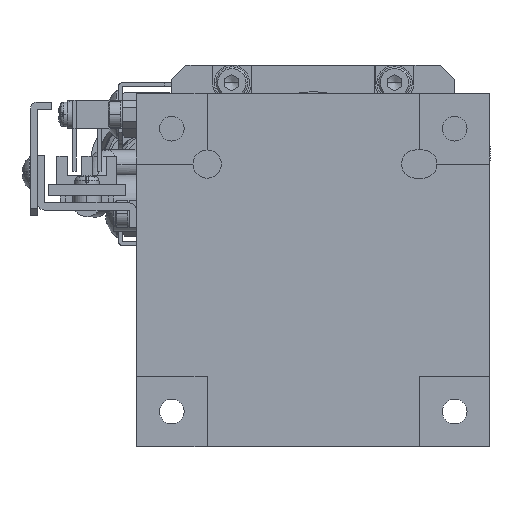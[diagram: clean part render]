
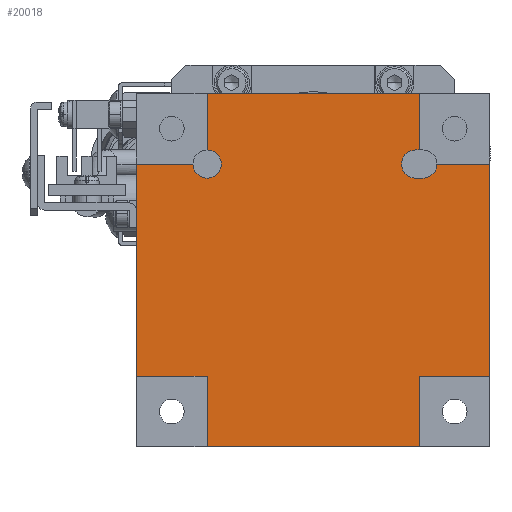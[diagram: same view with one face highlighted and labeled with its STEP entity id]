
A CAD part, front view. The second image highlights one B-rep face of the part: STEP entity #20018.
In plain terms, the highlighted planar face has unit normal (0, -1, 0) as drawn and (1, 0, 0) by its records, which use the part's own axes.
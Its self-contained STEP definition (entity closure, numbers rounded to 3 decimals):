
#779 = LINE ( 'NONE', #53503, #20107 ) ;
#909 = VERTEX_POINT ( 'NONE', #63635 ) ;
#1174 = CARTESIAN_POINT ( 'NONE',  ( 87.637, 117.831, -0.5 ) ) ;
#2214 = ORIENTED_EDGE ( 'NONE', *, *, #41973, .F. ) ;
#2621 = VECTOR ( 'NONE', #20832, 1000. ) ;
#3336 = CARTESIAN_POINT ( 'NONE',  ( 87.637, 117.831, -0.5 ) ) ;
#3385 = AXIS2_PLACEMENT_3D ( 'NONE', #10254, #10469, #49836 ) ;
#3535 = LINE ( 'NONE', #28181, #62204 ) ;
#3547 = DIRECTION ( 'NONE',  ( 0., -1., 0. ) ) ;
#4134 = LINE ( 'NONE', #3336, #5681 ) ;
#4188 = DIRECTION ( 'NONE',  ( 0., 0., 1. ) ) ;
#4217 = ORIENTED_EDGE ( 'NONE', *, *, #34833, .T. ) ;
#4383 = CARTESIAN_POINT ( 'NONE',  ( 87.637, 107.831, -10.5 ) ) ;
#4505 = VECTOR ( 'NONE', #5780, 1000. ) ;
#5302 = VECTOR ( 'NONE', #17810, 1000. ) ;
#5681 = VECTOR ( 'NONE', #3547, 1000. ) ;
#5717 = VERTEX_POINT ( 'NONE', #42117 ) ;
#5780 = DIRECTION ( 'NONE',  ( 0., 1., 0. ) ) ;
#6231 = CARTESIAN_POINT ( 'NONE',  ( 87.637, 77.831, 31.5 ) ) ;
#6657 = CARTESIAN_POINT ( 'NONE',  ( 87.637, 117.831, -0.5 ) ) ;
#6839 = LINE ( 'NONE', #21136, #4505 ) ;
#7024 = CARTESIAN_POINT ( 'NONE',  ( 87.637, 107.831, -10.5 ) ) ;
#7258 = EDGE_CURVE ( 'NONE', #43659, #29011, #40418, .T. ) ;
#7644 = DIRECTION ( 'NONE',  ( 0., 0., 1. ) ) ;
#7769 = VERTEX_POINT ( 'NONE', #28706 ) ;
#7843 = DIRECTION ( 'NONE',  ( 0., 0., 1. ) ) ;
#8837 = CIRCLE ( 'NONE', #36978, 2. ) ;
#8894 = DIRECTION ( 'NONE',  ( 0., 1., 0. ) ) ;
#10254 = CARTESIAN_POINT ( 'NONE',  ( 87.637, 108.331, 29.5 ) ) ;
#10469 = DIRECTION ( 'NONE',  ( 1., 0., 0. ) ) ;
#10518 = CARTESIAN_POINT ( 'NONE',  ( 87.637, 107.831, 39.5 ) ) ;
#11175 = VERTEX_POINT ( 'NONE', #10518 ) ;
#11582 = ORIENTED_EDGE ( 'NONE', *, *, #44808, .F. ) ;
#12252 = LINE ( 'NONE', #35936, #39939 ) ;
#12858 = VERTEX_POINT ( 'NONE', #35582 ) ;
#13214 = FACE_OUTER_BOUND ( 'NONE', #36959, .T. ) ;
#14586 = VECTOR ( 'NONE', #43974, 1000. ) ;
#14778 = CARTESIAN_POINT ( 'NONE',  ( 87.637, 108.331, 27.5 ) ) ;
#15001 = CARTESIAN_POINT ( 'NONE',  ( 87.637, 107.831, 39.5 ) ) ;
#15216 = EDGE_CURVE ( 'NONE', #31058, #17172, #33871, .T. ) ;
#16434 = ORIENTED_EDGE ( 'NONE', *, *, #59092, .F. ) ;
#16896 = LINE ( 'NONE', #23636, #5302 ) ;
#17048 = VERTEX_POINT ( 'NONE', #59546 ) ;
#17172 = VERTEX_POINT ( 'NONE', #35611 ) ;
#17810 = DIRECTION ( 'NONE',  ( 0., -1., 0. ) ) ;
#18076 = CARTESIAN_POINT ( 'NONE',  ( 87.637, 79.831, 29.5 ) ) ;
#18614 = CARTESIAN_POINT ( 'NONE',  ( 87.637, 77.831, 29.5 ) ) ;
#18660 = VERTEX_POINT ( 'NONE', #38370 ) ;
#18731 = EDGE_CURVE ( 'NONE', #18660, #7769, #18806, .T. ) ;
#18806 = LINE ( 'NONE', #27686, #56514 ) ;
#19538 = CARTESIAN_POINT ( 'NONE',  ( 87.637, 67.831, -0.5 ) ) ;
#20018 = ADVANCED_FACE ( 'NONE', ( #13214 ), #21258, .T. ) ;
#20107 = VECTOR ( 'NONE', #58900, 1000. ) ;
#20406 = DIRECTION ( 'NONE',  ( 0., 1., 0. ) ) ;
#20832 = DIRECTION ( 'NONE',  ( 0., 0., 1. ) ) ;
#21136 = CARTESIAN_POINT ( 'NONE',  ( 87.637, 117.831, 27.5 ) ) ;
#21258 = PLANE ( 'NONE',  #21724 ) ;
#21455 = EDGE_CURVE ( 'NONE', #909, #32319, #6839, .T. ) ;
#21724 = AXIS2_PLACEMENT_3D ( 'NONE', #1174, #55039, #35855 ) ;
#22369 = CARTESIAN_POINT ( 'NONE',  ( 87.637, 77.831, 39.5 ) ) ;
#23490 = ORIENTED_EDGE ( 'NONE', *, *, #35029, .T. ) ;
#23636 = CARTESIAN_POINT ( 'NONE',  ( 87.637, 117.831, 31.5 ) ) ;
#24279 = LINE ( 'NONE', #15001, #48085 ) ;
#24313 = DIRECTION ( 'NONE',  ( 0., -1., 0. ) ) ;
#24937 = CARTESIAN_POINT ( 'NONE',  ( 87.637, 107.331, 29.5 ) ) ;
#25159 = CARTESIAN_POINT ( 'NONE',  ( 87.637, 107.831, -10.5 ) ) ;
#25272 = EDGE_CURVE ( 'NONE', #17048, #57015, #12252, .T. ) ;
#27686 = CARTESIAN_POINT ( 'NONE',  ( 87.637, 117.831, 29.5 ) ) ;
#27794 = DIRECTION ( 'NONE',  ( 0., 1., 0. ) ) ;
#28181 = CARTESIAN_POINT ( 'NONE',  ( 87.637, 77.831, -10.5 ) ) ;
#28706 = CARTESIAN_POINT ( 'NONE',  ( 87.637, 67.831, 29.5 ) ) ;
#28904 = LINE ( 'NONE', #25159, #2621 ) ;
#28935 = ORIENTED_EDGE ( 'NONE', *, *, #58921, .F. ) ;
#29011 = VERTEX_POINT ( 'NONE', #6231 ) ;
#29897 = DIRECTION ( 'NONE',  ( 1., 0., 0. ) ) ;
#30778 = LINE ( 'NONE', #4383, #14586 ) ;
#31058 = VERTEX_POINT ( 'NONE', #39491 ) ;
#31792 = ORIENTED_EDGE ( 'NONE', *, *, #38950, .T. ) ;
#31815 = CARTESIAN_POINT ( 'NONE',  ( 87.637, 110.331, 29.5 ) ) ;
#32045 = VERTEX_POINT ( 'NONE', #7024 ) ;
#32158 = VERTEX_POINT ( 'NONE', #22369 ) ;
#32319 = VERTEX_POINT ( 'NONE', #14778 ) ;
#32630 = VECTOR ( 'NONE', #7644, 1000. ) ;
#32812 = DIRECTION ( 'NONE',  ( 1., 0., 0. ) ) ;
#33276 = LINE ( 'NONE', #46981, #50200 ) ;
#33379 = ORIENTED_EDGE ( 'NONE', *, *, #18731, .T. ) ;
#33398 = ORIENTED_EDGE ( 'NONE', *, *, #40073, .T. ) ;
#33871 = LINE ( 'NONE', #6657, #38478 ) ;
#34771 = CIRCLE ( 'NONE', #3385, 2. ) ;
#34833 = EDGE_CURVE ( 'NONE', #11175, #32158, #24279, .T. ) ;
#35029 = EDGE_CURVE ( 'NONE', #32045, #5717, #28904, .T. ) ;
#35034 = EDGE_CURVE ( 'NONE', #12858, #909, #51955, .T. ) ;
#35582 = CARTESIAN_POINT ( 'NONE',  ( 87.637, 107.331, 31.5 ) ) ;
#35611 = CARTESIAN_POINT ( 'NONE',  ( 87.637, 117.831, 29.5 ) ) ;
#35709 = VERTEX_POINT ( 'NONE', #57530 ) ;
#35855 = DIRECTION ( 'NONE',  ( 0., 1., 0. ) ) ;
#35936 = CARTESIAN_POINT ( 'NONE',  ( 87.637, 77.831, -10.5 ) ) ;
#35964 = DIRECTION ( 'NONE',  ( 0., 0., 1. ) ) ;
#36959 = EDGE_LOOP ( 'NONE', ( #28935, #31792, #4217, #2214, #63388, #45297, #33379, #16434, #57155, #37912, #11582, #23490, #40470, #51346, #33398, #52491, #44855, #37126 ) ) ;
#36978 = AXIS2_PLACEMENT_3D ( 'NONE', #61157, #55523, #27794 ) ;
#37126 = ORIENTED_EDGE ( 'NONE', *, *, #35034, .F. ) ;
#37288 = CARTESIAN_POINT ( 'NONE',  ( 87.637, 77.831, -0.5 ) ) ;
#37686 = VECTOR ( 'NONE', #4188, 1000. ) ;
#37912 = ORIENTED_EDGE ( 'NONE', *, *, #25272, .F. ) ;
#38370 = CARTESIAN_POINT ( 'NONE',  ( 87.637, 75.831, 29.5 ) ) ;
#38478 = VECTOR ( 'NONE', #35964, 1000. ) ;
#38950 = EDGE_CURVE ( 'NONE', #48695, #11175, #58833, .T. ) ;
#39491 = CARTESIAN_POINT ( 'NONE',  ( 87.637, 117.831, -0.5 ) ) ;
#39939 = VECTOR ( 'NONE', #60519, 1000. ) ;
#40073 = EDGE_CURVE ( 'NONE', #17172, #60270, #33276, .T. ) ;
#40418 = CIRCLE ( 'NONE', #50268, 2. ) ;
#40470 = ORIENTED_EDGE ( 'NONE', *, *, #51335, .F. ) ;
#41742 = CARTESIAN_POINT ( 'NONE',  ( 87.637, 107.831, 31.5 ) ) ;
#41973 = EDGE_CURVE ( 'NONE', #29011, #32158, #3535, .T. ) ;
#42117 = CARTESIAN_POINT ( 'NONE',  ( 87.637, 107.831, -0.5 ) ) ;
#43659 = VERTEX_POINT ( 'NONE', #18076 ) ;
#43974 = DIRECTION ( 'NONE',  ( 0., -1., 0. ) ) ;
#44226 = EDGE_CURVE ( 'NONE', #57015, #35709, #779, .T. ) ;
#44808 = EDGE_CURVE ( 'NONE', #32045, #17048, #30778, .T. ) ;
#44855 = ORIENTED_EDGE ( 'NONE', *, *, #21455, .F. ) ;
#45297 = ORIENTED_EDGE ( 'NONE', *, *, #55858, .F. ) ;
#46981 = CARTESIAN_POINT ( 'NONE',  ( 87.637, 117.831, 29.5 ) ) ;
#47997 = AXIS2_PLACEMENT_3D ( 'NONE', #24937, #29897, #20406 ) ;
#48085 = VECTOR ( 'NONE', #24313, 1000. ) ;
#48695 = VERTEX_POINT ( 'NONE', #41742 ) ;
#49836 = DIRECTION ( 'NONE',  ( 0., 1., 0. ) ) ;
#50200 = VECTOR ( 'NONE', #52814, 1000. ) ;
#50268 = AXIS2_PLACEMENT_3D ( 'NONE', #18614, #32812, #8894 ) ;
#51335 = EDGE_CURVE ( 'NONE', #31058, #5717, #4134, .T. ) ;
#51346 = ORIENTED_EDGE ( 'NONE', *, *, #15216, .T. ) ;
#51955 = CIRCLE ( 'NONE', #47997, 2. ) ;
#52336 = LINE ( 'NONE', #19538, #37686 ) ;
#52418 = CARTESIAN_POINT ( 'NONE',  ( 87.637, 107.831, -10.5 ) ) ;
#52491 = ORIENTED_EDGE ( 'NONE', *, *, #52643, .F. ) ;
#52643 = EDGE_CURVE ( 'NONE', #32319, #60270, #34771, .T. ) ;
#52814 = DIRECTION ( 'NONE',  ( 0., -1., 0. ) ) ;
#53503 = CARTESIAN_POINT ( 'NONE',  ( 87.637, 117.831, -0.5 ) ) ;
#55039 = DIRECTION ( 'NONE',  ( 1., 0., 0. ) ) ;
#55523 = DIRECTION ( 'NONE',  ( 1., 0., 0. ) ) ;
#55858 = EDGE_CURVE ( 'NONE', #18660, #43659, #8837, .T. ) ;
#56514 = VECTOR ( 'NONE', #62552, 1000. ) ;
#57015 = VERTEX_POINT ( 'NONE', #37288 ) ;
#57155 = ORIENTED_EDGE ( 'NONE', *, *, #44226, .F. ) ;
#57530 = CARTESIAN_POINT ( 'NONE',  ( 87.637, 67.831, -0.5 ) ) ;
#58833 = LINE ( 'NONE', #52418, #32630 ) ;
#58900 = DIRECTION ( 'NONE',  ( 0., -1., 0. ) ) ;
#58921 = EDGE_CURVE ( 'NONE', #48695, #12858, #16896, .T. ) ;
#59092 = EDGE_CURVE ( 'NONE', #35709, #7769, #52336, .T. ) ;
#59546 = CARTESIAN_POINT ( 'NONE',  ( 87.637, 77.831, -10.5 ) ) ;
#60270 = VERTEX_POINT ( 'NONE', #31815 ) ;
#60519 = DIRECTION ( 'NONE',  ( 0., 0., 1. ) ) ;
#61157 = CARTESIAN_POINT ( 'NONE',  ( 87.637, 77.831, 29.5 ) ) ;
#62204 = VECTOR ( 'NONE', #7843, 1000. ) ;
#62552 = DIRECTION ( 'NONE',  ( 0., -1., 0. ) ) ;
#63388 = ORIENTED_EDGE ( 'NONE', *, *, #7258, .F. ) ;
#63635 = CARTESIAN_POINT ( 'NONE',  ( 87.637, 107.331, 27.5 ) ) ;
